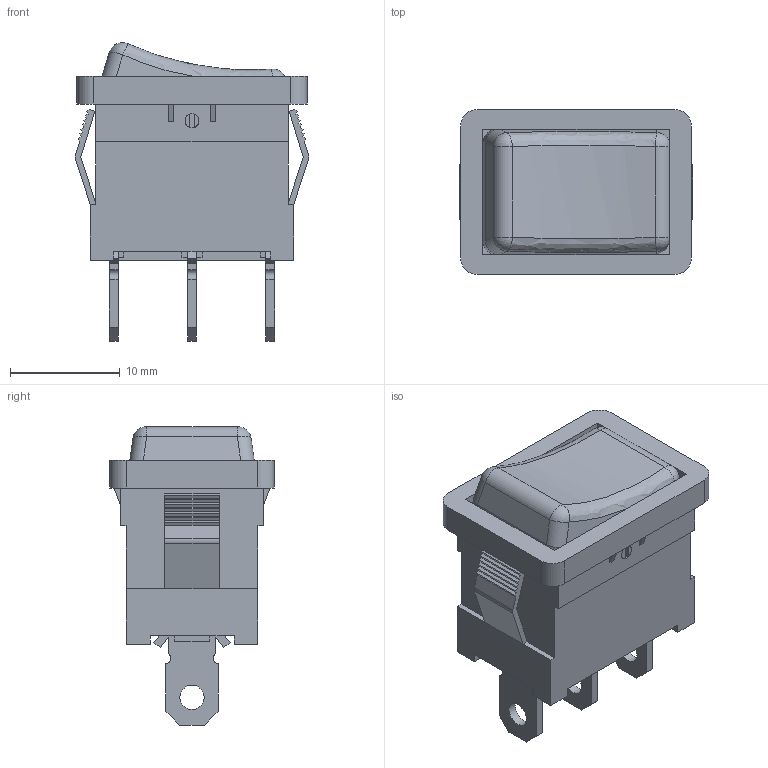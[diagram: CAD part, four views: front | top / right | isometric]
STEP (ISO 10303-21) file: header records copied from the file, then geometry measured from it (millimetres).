
FILE_DESCRIPTION(/* description */ (''),/* implementation_level */ '2;1');
FILE_NAME(/* name */ 'C:\Users\Hani\Desktop\work\RF1-1A-DC-2-RL\RF1-1A-DC-2-RL.stp',/* time_stamp */ '2022-06-10T09:22:10-07:00',/* author */ ('Hani'),/* organization */ (''),/* preprocessor_version */ 'ST-DEVELOPER v17',/* originating_system */ 'Autodesk Inventor 2019',/* authorisation */ '');
FILE_SCHEMA (('AUTOMOTIVE_DESIGN { 1 0 10303 214 3 1 1 }'));
Length unit declared in the file: inch
Products named in the file (5): SRB1-2G-DC-1-NN Rocker Switch; ROCKER SWITCH; botton; .187 terminal; pin
Assembly tree (6 placements, depth 2):
  SRB1-2G-DC-1-NN Rocker Switch
    ROCKER SWITCH
    botton
    .187 terminal  x3
    pin
Bounding box: 21.25 x 15.01 x 27.17 mm (x, y, z)
Volume: 4236.8 mm3; surface area: 3047.9 mm2
Topology: 6 solids, 6 shells, 237 faces, 627 edges, 410 vertices
Faces by surface type: plane 201, cylinder 26, bspline 6, sphere 4
Full cylindrical faces by diameter (mm): 1.27 x2, 2.21 x3
Entity records: 6300 total; most frequent: CARTESIAN_POINT 1135, ORIENTED_EDGE 1050, DIRECTION 991, EDGE_CURVE 525, LINE 467, VECTOR 467, VERTEX_POINT 342, AXIS2_PLACEMENT_3D 262
